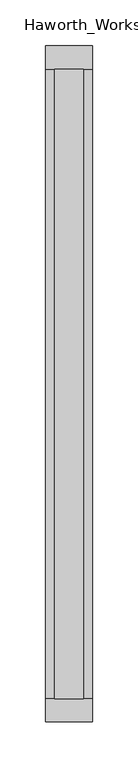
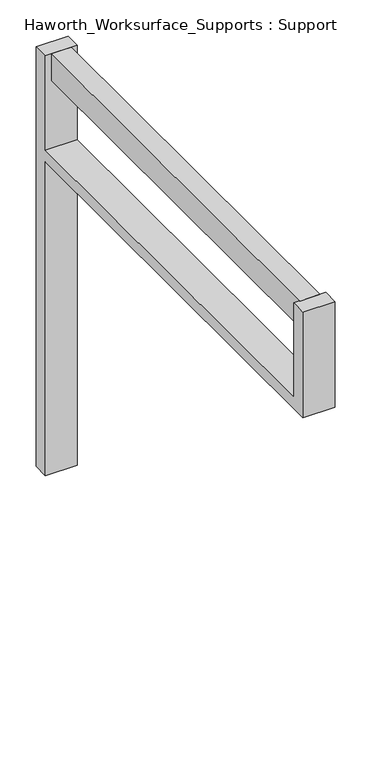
"""IFC4 building model written with IfcOpenShell, lengths in millimetres: furniture geometry, Haworth_Worksurface_Supports : Support."""

from ifc_helpers import new_model, si_unit, frame, origin, place, context, project, spatial, polyline, outline, extrude, source, transform, mapped, element, save


def haworth_worksurface_supports_support_401ccf27(model_context):
    return source(origin(), model_context, "Body", "SweptSolid", [
        extrude(outline(polyline([(123.825, -355.6), (92.075, -355.6), (92.075, 330.2), (123.825, 330.2), (123.825, -355.6)])), frame((0.0, 0.0, 661.9875), z_axis=(0.0, 0.0, 1.0), x_axis=(1.0, 0.0, 0.0)), (0.0, 0.0, 1.0), 44.45),
        extrude(outline(polyline([(330.2, 528.6375), (-381.0, 528.6375), (-381.0, 706.4375), (-355.6, 706.4375), (-355.6, 547.6875), (330.2, 547.6875), (330.2, 706.4375), (355.6, 706.4375), (355.6, 0.0), (330.2, 0.0), (330.2, 528.6375)])), frame((82.55, 0.0, 0.0), z_axis=(1.0, 0.0, 0.0), x_axis=(0.0, 1.0, 0.0)), (0.0, 0.0, 1.0), 50.8),
    ])


if __name__ == "__main__":
    model = new_model("IFC4")
    model_context = context("Model", 3, world=origin())
    ifc_project = project(units=[si_unit("LENGTHUNIT", "METRE", prefix="MILLI")], contexts=[model_context])
    site = spatial("IfcSite", under=ifc_project)
    building = spatial("IfcBuilding", under=site)
    placement = place(None, origin())
    haworth_worksurface_supports_support_shape = haworth_worksurface_supports_support_401ccf27(model_context)
    element("IfcFurniture", 1, ObjectType="Haworth_Worksurface_Supports : Support", at=placement, inside=building, context=model_context, shape_type="MappedRepresentation", body=[
        mapped(haworth_worksurface_supports_support_shape, transform((0.0, 0.0, 0.0), x_axis=(1.0, 0.0, 0.0), y_axis=(0.0, 1.0, 0.0), z_axis=(0.0, 0.0, 1.0))),
    ])
    save(model, "model.ifc")
